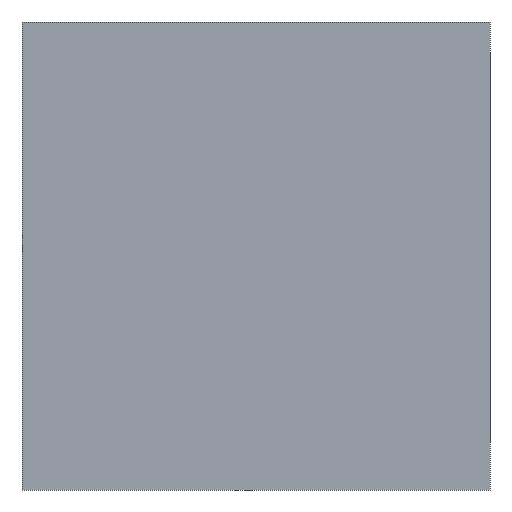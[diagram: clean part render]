
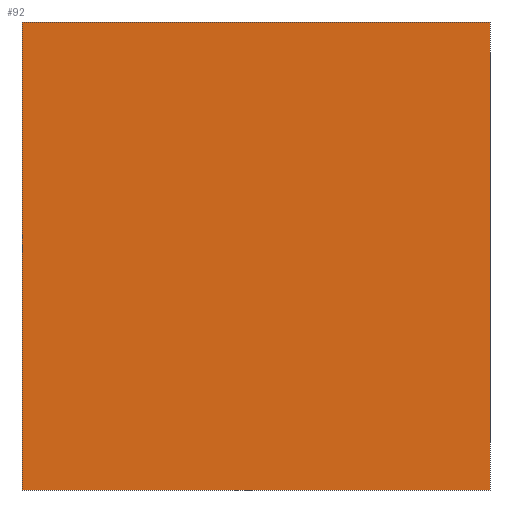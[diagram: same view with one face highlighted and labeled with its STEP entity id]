
A CAD part, front view. The second image highlights one B-rep face of the part: STEP entity #92.
In plain terms, the highlighted planar face has unit normal (0, -1, 0).
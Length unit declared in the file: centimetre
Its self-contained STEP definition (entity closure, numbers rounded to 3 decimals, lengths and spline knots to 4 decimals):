
#8 = ORIENTED_EDGE ( 'NONE', *, *, #194, .F. ) ;
#19 = VECTOR ( 'NONE', #327, 100. ) ;
#20 = CARTESIAN_POINT ( 'NONE',  ( 0., 0., 1000. ) ) ;
#21 = LINE ( 'NONE', #88, #171 ) ;
#30 = ORIENTED_EDGE ( 'NONE', *, *, #135, .T. ) ;
#56 = CARTESIAN_POINT ( 'NONE',  ( 1000., 0., 1000. ) ) ;
#59 = CARTESIAN_POINT ( 'NONE',  ( 0., 0., 0. ) ) ;
#69 = VERTEX_POINT ( 'NONE', #150 ) ;
#78 = LINE ( 'NONE', #216, #19 ) ;
#80 = EDGE_LOOP ( 'NONE', ( #30, #8, #340, #320 ) ) ;
#83 = DIRECTION ( 'NONE',  ( 0., 0., 1. ) ) ;
#88 = CARTESIAN_POINT ( 'NONE',  ( 0., 0., 0. ) ) ;
#92 = ADVANCED_FACE ( 'NONE', ( #290 ), #434, .F. ) ;
#135 = EDGE_CURVE ( 'NONE', #170, #438, #21, .T. ) ;
#150 = CARTESIAN_POINT ( 'NONE',  ( 1000., 0., 1000. ) ) ;
#170 = VERTEX_POINT ( 'NONE', #59 ) ;
#171 = VECTOR ( 'NONE', #227, 100. ) ;
#175 = CARTESIAN_POINT ( 'NONE',  ( 0., 0., 1000. ) ) ;
#176 = VERTEX_POINT ( 'NONE', #368 ) ;
#189 = VECTOR ( 'NONE', #373, 100. ) ;
#194 = EDGE_CURVE ( 'NONE', #69, #438, #231, .T. ) ;
#216 = CARTESIAN_POINT ( 'NONE',  ( 0., 0., 1000. ) ) ;
#227 = DIRECTION ( 'NONE',  ( 1., 0., 0. ) ) ;
#231 = LINE ( 'NONE', #56, #189 ) ;
#234 = EDGE_CURVE ( 'NONE', #176, #170, #278, .T. ) ;
#247 = AXIS2_PLACEMENT_3D ( 'NONE', #20, #403, #83 ) ;
#278 = LINE ( 'NONE', #175, #380 ) ;
#290 = FACE_OUTER_BOUND ( 'NONE', #80, .T. ) ;
#320 = ORIENTED_EDGE ( 'NONE', *, *, #234, .T. ) ;
#327 = DIRECTION ( 'NONE',  ( 1., 0., 0. ) ) ;
#339 = DIRECTION ( 'NONE',  ( 0., 0., -1. ) ) ;
#340 = ORIENTED_EDGE ( 'NONE', *, *, #447, .F. ) ;
#362 = CARTESIAN_POINT ( 'NONE',  ( 1000., 0., 0. ) ) ;
#368 = CARTESIAN_POINT ( 'NONE',  ( 0., 0., 1000. ) ) ;
#373 = DIRECTION ( 'NONE',  ( 0., 0., -1. ) ) ;
#380 = VECTOR ( 'NONE', #339, 100. ) ;
#403 = DIRECTION ( 'NONE',  ( 0., 1., 0. ) ) ;
#434 = PLANE ( 'NONE',  #247 ) ;
#438 = VERTEX_POINT ( 'NONE', #362 ) ;
#447 = EDGE_CURVE ( 'NONE', #176, #69, #78, .T. ) ;
